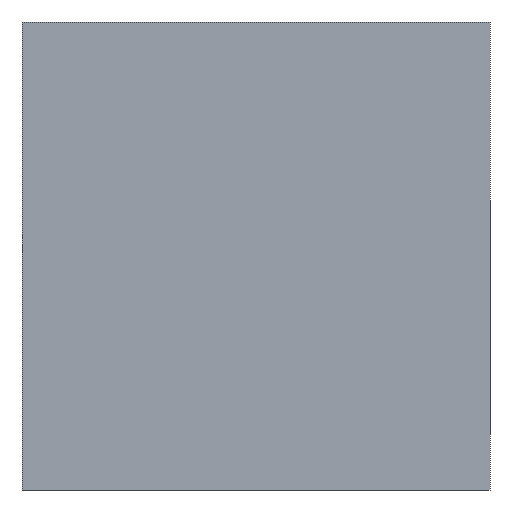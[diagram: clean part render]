
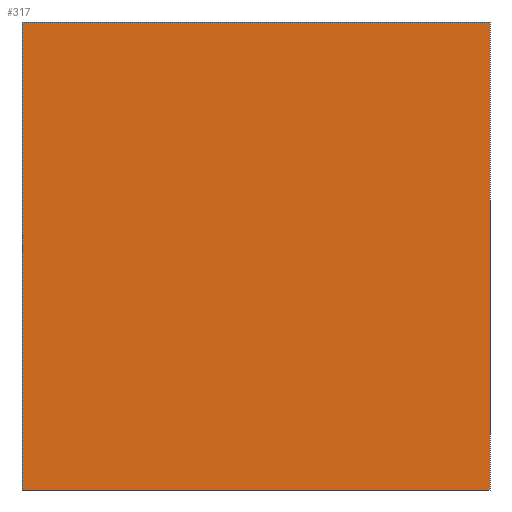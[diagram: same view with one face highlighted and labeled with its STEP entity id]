
A CAD part, left-side view. The second image highlights one B-rep face of the part: STEP entity #317.
In plain terms, the highlighted planar face has unit normal (-1, 0, 0).
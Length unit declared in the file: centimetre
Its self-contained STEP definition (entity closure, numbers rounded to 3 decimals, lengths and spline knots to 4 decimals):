
#24 = CARTESIAN_POINT ( 'NONE',  ( 0., 0., 1000. ) ) ;
#26 = CARTESIAN_POINT ( 'NONE',  ( 0., 1000., 1000. ) ) ;
#29 = LINE ( 'NONE', #342, #316 ) ;
#32 = VERTEX_POINT ( 'NONE', #230 ) ;
#54 = LINE ( 'NONE', #24, #180 ) ;
#65 = DIRECTION ( 'NONE',  ( 0., 0., -1. ) ) ;
#82 = ORIENTED_EDGE ( 'NONE', *, *, #169, .T. ) ;
#91 = DIRECTION ( 'NONE',  ( 0., 0., -1. ) ) ;
#129 = CARTESIAN_POINT ( 'NONE',  ( 0., 1000., 0. ) ) ;
#131 = DIRECTION ( 'NONE',  ( 0., 0., -1. ) ) ;
#136 = VERTEX_POINT ( 'NONE', #392 ) ;
#142 = EDGE_CURVE ( 'NONE', #371, #32, #298, .T. ) ;
#169 = EDGE_CURVE ( 'NONE', #136, #385, #430, .T. ) ;
#180 = VECTOR ( 'NONE', #91, 100. ) ;
#191 = EDGE_CURVE ( 'NONE', #32, #385, #54, .T. ) ;
#216 = AXIS2_PLACEMENT_3D ( 'NONE', #413, #367, #131 ) ;
#220 = DIRECTION ( 'NONE',  ( 0., -1., 0. ) ) ;
#230 = CARTESIAN_POINT ( 'NONE',  ( 0., 0., 1000. ) ) ;
#236 = CARTESIAN_POINT ( 'NONE',  ( 0., 0., 0. ) ) ;
#268 = DIRECTION ( 'NONE',  ( 0., -1., 0. ) ) ;
#282 = FACE_OUTER_BOUND ( 'NONE', #409, .T. ) ;
#294 = VECTOR ( 'NONE', #268, 100. ) ;
#298 = LINE ( 'NONE', #355, #350 ) ;
#305 = ORIENTED_EDGE ( 'NONE', *, *, #191, .F. ) ;
#316 = VECTOR ( 'NONE', #65, 100. ) ;
#317 = ADVANCED_FACE ( 'NONE', ( #282 ), #333, .F. ) ;
#333 = PLANE ( 'NONE',  #216 ) ;
#342 = CARTESIAN_POINT ( 'NONE',  ( 0., 1000., 1000. ) ) ;
#350 = VECTOR ( 'NONE', #220, 100. ) ;
#351 = EDGE_CURVE ( 'NONE', #371, #136, #29, .T. ) ;
#355 = CARTESIAN_POINT ( 'NONE',  ( 0., 1000., 1000. ) ) ;
#359 = ORIENTED_EDGE ( 'NONE', *, *, #351, .T. ) ;
#367 = DIRECTION ( 'NONE',  ( 1., 0., 0. ) ) ;
#371 = VERTEX_POINT ( 'NONE', #26 ) ;
#385 = VERTEX_POINT ( 'NONE', #236 ) ;
#389 = ORIENTED_EDGE ( 'NONE', *, *, #142, .F. ) ;
#392 = CARTESIAN_POINT ( 'NONE',  ( 0., 1000., 0. ) ) ;
#409 = EDGE_LOOP ( 'NONE', ( #82, #305, #389, #359 ) ) ;
#413 = CARTESIAN_POINT ( 'NONE',  ( 0., 1000., 1000. ) ) ;
#430 = LINE ( 'NONE', #129, #294 ) ;
